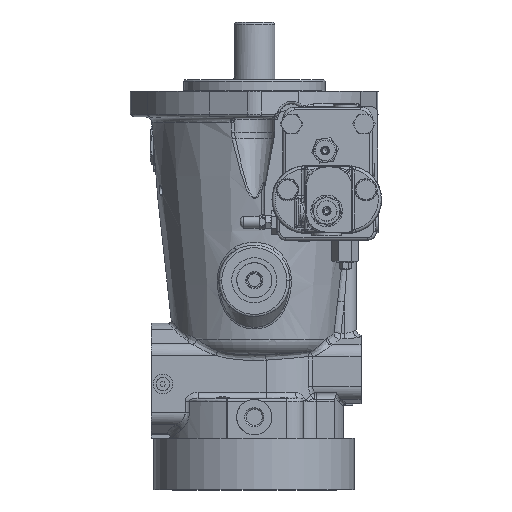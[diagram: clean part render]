
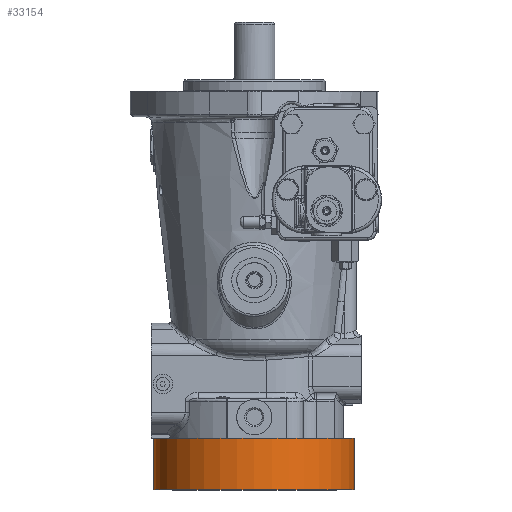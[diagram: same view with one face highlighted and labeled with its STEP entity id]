
A CAD part, left-side view. The second image highlights one B-rep face of the part: STEP entity #33154.
In plain terms, the highlighted cylindrical face has radius 107.95 mm (diameter 215.9 mm), a full revolution.
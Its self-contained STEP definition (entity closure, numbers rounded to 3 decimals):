
#1043=CYLINDRICAL_SURFACE($,#36064,107.95);
#3409=FACE_BOUND($,#9724,.T.);
#7308=FACE_OUTER_BOUND($,#9723,.T.);
#9723=EDGE_LOOP($,(#26370));
#9724=EDGE_LOOP($,(#26371));
#11738=CIRCLE($,#36055,107.95);
#11743=CIRCLE($,#36065,107.95);
#14711=VERTEX_POINT($,#74321);
#14716=VERTEX_POINT($,#74336);
#18771=EDGE_CURVE($,#14711,#14711,#11738,.T.);
#18776=EDGE_CURVE($,#14716,#14716,#11743,.T.);
#26370=ORIENTED_EDGE($,*,*,#18771,.T.);
#26371=ORIENTED_EDGE($,*,*,#18776,.T.);
#33154=ADVANCED_FACE($,(#7308,#3409),#1043,.T.);
#36055=AXIS2_PLACEMENT_3D($,#74322,#42176,#42177);
#36064=AXIS2_PLACEMENT_3D($,#74335,#42194,#42195);
#36065=AXIS2_PLACEMENT_3D($,#74337,#42196,#42197);
#42176=DIRECTION('center_axis',(0.,0.,
1.));
#42177=DIRECTION('ref_axis',(0.,-1.,0.));
#42194=DIRECTION('center_axis',(0.,0.,
1.));
#42195=DIRECTION('ref_axis',(0.,-1.,0.));
#42196=DIRECTION('center_axis',(0.,0.,
-1.));
#42197=DIRECTION('ref_axis',(0.,-1.,0.));
#74321=CARTESIAN_POINT('',(-107.95,0.,-429.209));
#74322=CARTESIAN_POINT('Origin',(0.,0.,
-429.209));
#74335=CARTESIAN_POINT('Origin',(0.,0.,
-446.532));
#74336=CARTESIAN_POINT('',(0.,107.95,-373.634));
#74337=CARTESIAN_POINT('Origin',(0.,0.,
-373.634));
